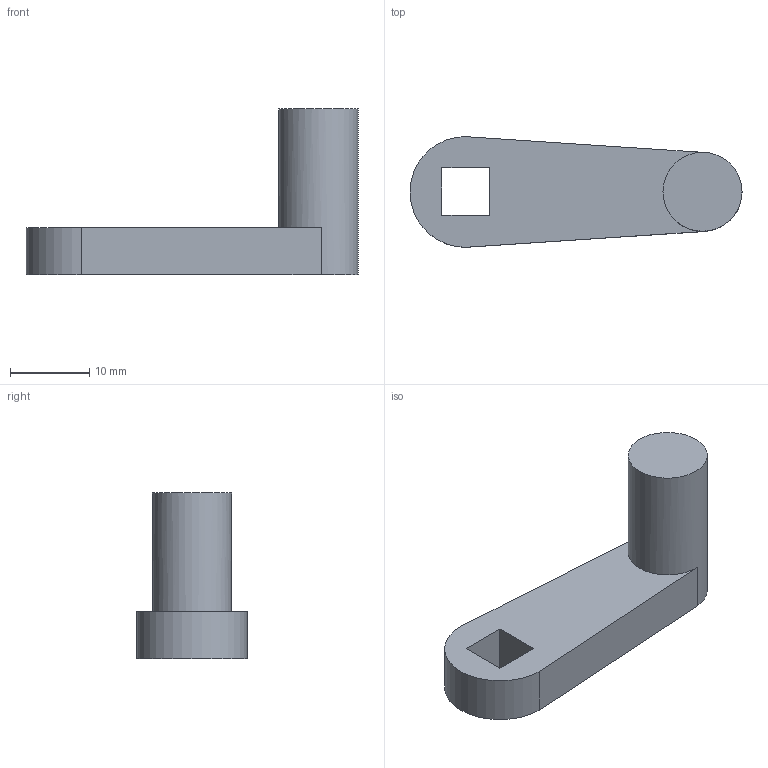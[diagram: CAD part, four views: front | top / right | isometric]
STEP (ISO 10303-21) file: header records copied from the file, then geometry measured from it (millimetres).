
FILE_DESCRIPTION(/* description */ (''),/* implementation_level */ '2;1');
FILE_NAME(/* name */ 'handle.step',/* time_stamp */ '2026-11-10T17:34:45+07:00',/* author */ (''),/* organization */ (''),/* preprocessor_version */ 'ST-DEVELOPER v20.2',/* originating_system */ 'Autodesk Translation Framework v15.17.0.0',/* authorisation */ '');
FILE_SCHEMA (('AUTOMOTIVE_DESIGN { 1 0 10303 214 3 1 1 }'));
Length unit declared in the file: millimetre
Products named in the file (1): 2026-11-10-16-01-25-191
Bounding box: 42 x 14 x 21 mm (x, y, z)
Volume: 3818.6 mm3; surface area: 2083.4 mm2
Topology: 1 solids, 1 shells, 11 faces, 27 edges, 18 vertices
Faces by surface type: plane 9, cylinder 2
Full cylindrical faces by diameter (mm): 10 x1
Entity records: 364 total; most frequent: DIRECTION 57, CARTESIAN_POINT 57, ORIENTED_EDGE 54, EDGE_CURVE 27, LINE 21, VECTOR 21, VERTEX_POINT 18, AXIS2_PLACEMENT_3D 18
